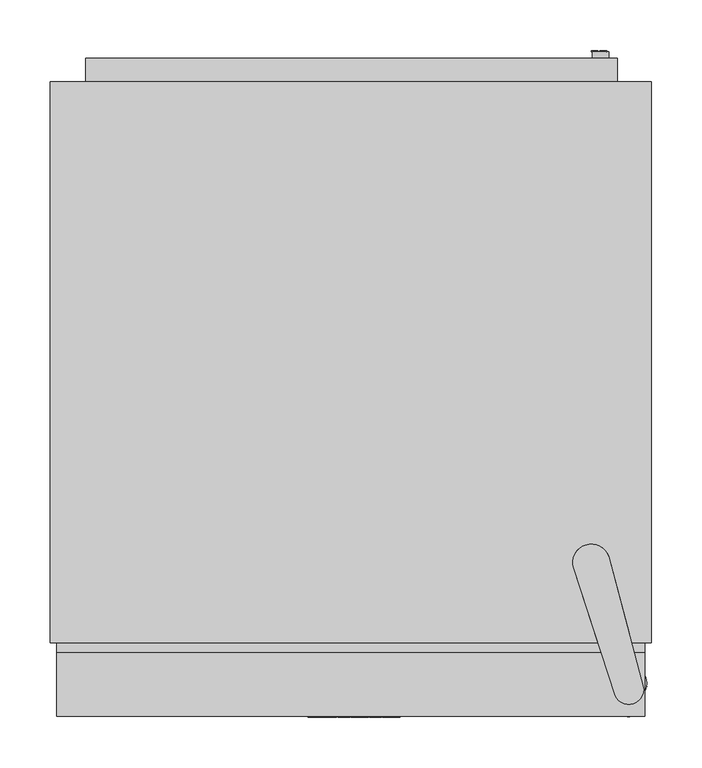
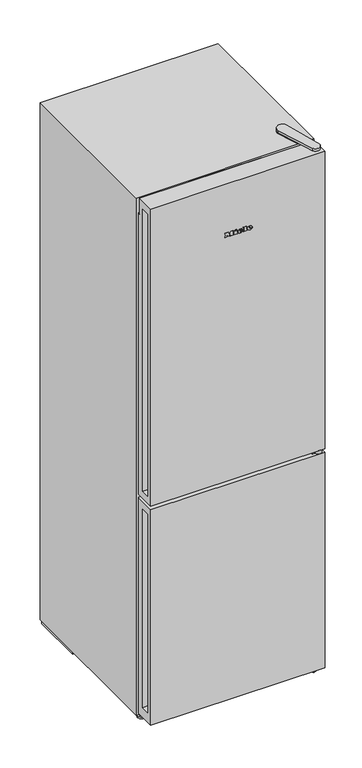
"""IFC4 building model written with IfcOpenShell, lengths in millimetres: proxy geometry, 12108880_OER_KDN4174E_EL : 38417451_OER_12108880_KDN4174E_EL."""

from ifc_helpers import new_model, si_unit, point, frame, frame_2d, origin, origin_with_axes, place, context, project, spatial, polyline, circle_curve, ellipse_curve, trimmed, segment, composite_curve, outline, extrude, faceted_brep, source, transform, mapped, element, save
from ifc_brep_helpers import plane_surface, cylinder_surface, revolved_surface, extruded_surface, advanced_brep


def specialty_equipment_d3030a19(model_context):
    return source(origin(), model_context, "Body", "SolidModel", [
        advanced_brep(
        [(38.73, -654.0, 1668.515), (38.73, -654.0, 1670.03), (48.765, -654.0, 1670.03), (31.305, -654.0, 1670.03), (35.43, -654.0, 1664.96), (48.51, -654.0, 1668.515), (43.98, -654.0, 1668.515), (40.41, -654.0, 1666.835), (38.73, -654.0, 1671.95), (38.73, -654.0, 1673.585), (41.295, -654.0, 1673.585), (41.295, -654.0, 1671.95), (38.73, -653.0, 1668.515), (40.41, -653.0, 1666.835), (43.98, -653.0, 1668.515), (48.51, -653.0, 1668.515), (35.43, -653.0, 1664.96), (31.305, -653.0, 1670.03), (48.765, -653.0, 1670.03), (38.73, -653.0, 1670.03), (38.73, -653.0, 1671.95), (41.295, -653.0, 1671.95), (41.295, -653.0, 1673.585), (38.73, -653.0, 1673.585)],
        [
            (0, 1),
            (1, 2),
            (2, 3, ellipse_curve(frame((40.035, -654.0, 1670.03), z_axis=(0.0, -1.0, 0.0), x_axis=(-1.0, 0.0, 0.0)), 8.73, 7.215)),
            (3, 4, circle_curve(frame((37.1100818, -654.0, 1670.54), z_axis=(0.0, -1.0, 0.0), x_axis=(0.0, 0.0, -1.0)), 5.8274415)),
            (4, 5, circle_curve(frame((39.860238, -654.0, 1674.5), z_axis=(0.0, -1.0, 0.0), x_axis=(0.0, 0.0, -1.0)), 10.5184889)),
            (5, 6),
            (6, 7, circle_curve(frame((41.1432353, -654.0, 1669.91), z_axis=(0.0, 1.0, 0.0), x_axis=(0.0, 0.0, -1.0)), 3.1612116)),
            (7, 0, circle_curve(frame((40.41, -654.0, 1668.515), z_axis=(0.0, 1.0, 0.0), x_axis=(0.0, 0.0, -1.0)), 1.68)),
            (8, 9),
            (9, 10, circle_curve(frame((40.0125, -654.0, 1673.585), z_axis=(0.0, 1.0, 0.0), x_axis=(0.0, 0.0, -1.0)), 1.2825)),
            (10, 11),
            (11, 8),
            (12, 13, circle_curve(frame((40.41, -653.0, 1668.515), z_axis=(0.0, -1.0, 0.0), x_axis=(0.0, 0.0, -1.0)), 1.68)),
            (13, 14, circle_curve(frame((41.1432353, -653.0, 1669.91), z_axis=(0.0, -1.0, 0.0), x_axis=(0.0, 0.0, -1.0)), 3.1612116)),
            (14, 15),
            (15, 16, circle_curve(frame((39.860238, -653.0, 1674.5), z_axis=(0.0, 1.0, 0.0), x_axis=(0.0, 0.0, -1.0)), 10.5184889)),
            (16, 17, circle_curve(frame((37.1100818, -653.0, 1670.54), z_axis=(0.0, 1.0, 0.0), x_axis=(0.0, 0.0, -1.0)), 5.8274415)),
            (17, 18, ellipse_curve(frame((40.035, -653.0, 1670.03), z_axis=(0.0, 1.0, 0.0), x_axis=(-1.0, 0.0, 0.0)), 8.73, 7.215)),
            (18, 19),
            (19, 12),
            (20, 21),
            (21, 22),
            (22, 23, circle_curve(frame((40.0125, -653.0, 1673.585), z_axis=(0.0, -1.0, 0.0), x_axis=(0.0, 0.0, -1.0)), 1.2825)),
            (23, 20),
            (0, 12),
            (19, 1),
            (18, 2),
            (5, 15),
            (14, 6),
            (17, 3),
            (13, 7),
            (16, 4),
            (8, 20),
            (23, 9),
            (22, 10),
            (21, 11),
        ],
        [
            plane_surface(frame((38.73, -654.0, 1670.03), z_axis=(0.0, -1.0, 0.0), x_axis=(0.0, 0.0, 1.0))),
            plane_surface(frame((38.73, -653.0, 1670.03), z_axis=(0.0, 1.0, 0.0), x_axis=(0.0, 0.0, -1.0))),
            plane_surface(frame((38.73, -654.0, 1668.515), z_axis=(1.0, 0.0, 0.0), x_axis=(0.0, 1.0, 0.0))),
            plane_surface(frame((38.73, -654.0, 1670.03), z_axis=(0.0, 0.0, -1.0), x_axis=(0.0, 1.0, 0.0))),
            plane_surface(frame((48.51, -654.0, 1668.515), z_axis=(0.0, 0.0, 1.0), x_axis=(0.0, 1.0, 0.0))),
            extruded_surface(trimmed(ellipse_curve(frame((40.035, -652.0, 1670.03), z_axis=(0.0, -1.0, 0.0), x_axis=(-1.0, 0.0, 0.0)), 8.73, 7.215), [point((48.765, -652.0, 1670.03))], [point((31.305, -652.0, 1670.03))], True, "CARTESIAN"), (0.0, -1.0, 0.0), 1.0),
            revolved_surface(polyline([(41.1432353, -653.0, 1666.7487884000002), (41.1432353, -654.0, 1666.7487884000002)]), (41.1432353, -653.0, 1669.91), (0.0, 1.0, 0.0)),
            revolved_surface(polyline([(40.41, -653.0, 1666.835), (40.41, -654.0, 1666.835)]), (40.41, -653.0, 1668.515), (0.0, 1.0, 0.0)),
            cylinder_surface(frame((37.1100818, -653.0, 1670.54), z_axis=(0.0, -1.0, 0.0), x_axis=(0.0, 0.0, -1.0)), 5.8274415),
            cylinder_surface(frame((39.860238, -653.0, 1674.5), z_axis=(0.0, -1.0, 0.0), x_axis=(0.0, 0.0, -1.0)), 10.5184889),
            plane_surface(frame((38.73, -654.0, 1671.95), z_axis=(1.0, 0.0, 0.0), x_axis=(0.0, 1.0, 0.0))),
            revolved_surface(polyline([(40.0125, -653.0, 1672.3025), (40.0125, -654.0, 1672.3025)]), (40.0125, -653.0, 1673.585), (0.0, 1.0, 0.0)),
            plane_surface(frame((41.295, -654.0, 1673.585), z_axis=(-1.0, 0.0, 0.0), x_axis=(0.0, 1.0, 0.0))),
            plane_surface(frame((41.295, -654.0, 1671.95), z_axis=(0.0, 0.0, 1.0), x_axis=(0.0, 1.0, 0.0))),
        ],
        [
            (0, [[1, 2, 3, 4, 5, 6, 7, 8], [9, 10, 11, 12]]),
            (1, [[13, 14, 15, 16, 17, 18, 19, 20], [21, 22, 23, 24]]),
            (2, [[-1, 25, -20, 26]]),
            (3, [[-2, -26, -19, 27]]),
            (4, [[-6, 28, -15, 29]]),
            (5, [[-3, -27, -18, 30]]),
            (6, [[-7, -29, -14, 31]]),
            (7, [[-8, -31, -13, -25]]),
            (8, [[-4, -30, -17, 32]]),
            (9, [[-5, -32, -16, -28]]),
            (10, [[-9, 33, -24, 34]]),
            (11, [[-10, -34, -23, 35]]),
            (12, [[-11, -35, -22, 36]]),
            (13, [[-12, -36, -21, -33]]),
        ],
    ),
        advanced_brep(
        [(7.425, -654.0, 1668.515), (7.425, -654.0, 1670.03), (17.46, -654.0, 1670.03), (0.0, -654.0, 1670.03), (4.125, -654.0, 1664.96), (17.205, -654.0, 1668.515), (12.675, -654.0, 1668.515), (9.105, -654.0, 1666.835), (7.425, -654.0, 1671.95), (7.425, -654.0, 1673.585), (9.99, -654.0, 1673.585), (9.99, -654.0, 1671.95), (7.425, -653.0, 1668.515), (9.105, -653.0, 1666.835), (12.675, -653.0, 1668.515), (17.205, -653.0, 1668.515), (4.125, -653.0, 1664.96), (0.0, -653.0, 1670.03), (17.46, -653.0, 1670.03), (7.425, -653.0, 1670.03), (7.425, -653.0, 1671.95), (9.99, -653.0, 1671.95), (9.99, -653.0, 1673.585), (7.425, -653.0, 1673.585)],
        [
            (0, 1),
            (1, 2),
            (2, 3, ellipse_curve(frame((8.73, -654.0, 1670.03), z_axis=(0.0, -1.0, 0.0), x_axis=(-1.0, 0.0, 0.0)), 8.73, 7.215)),
            (3, 4, circle_curve(frame((5.8050818, -654.0, 1670.54), z_axis=(0.0, -1.0, 0.0), x_axis=(0.0, 0.0, -1.0)), 5.8274415)),
            (4, 5, circle_curve(frame((8.555238, -654.0, 1674.5), z_axis=(0.0, -1.0, 0.0), x_axis=(0.0, 0.0, -1.0)), 10.5184889)),
            (5, 6),
            (6, 7, circle_curve(frame((9.8382353, -654.0, 1669.91), z_axis=(0.0, 1.0, 0.0), x_axis=(0.0, 0.0, -1.0)), 3.1612116)),
            (7, 0, circle_curve(frame((9.105, -654.0, 1668.515), z_axis=(0.0, 1.0, 0.0), x_axis=(0.0, 0.0, -1.0)), 1.68)),
            (8, 9),
            (9, 10, circle_curve(frame((8.7075, -654.0, 1673.585), z_axis=(0.0, 1.0, 0.0), x_axis=(0.0, 0.0, -1.0)), 1.2825)),
            (10, 11),
            (11, 8),
            (12, 13, circle_curve(frame((9.105, -653.0, 1668.515), z_axis=(0.0, -1.0, 0.0), x_axis=(0.0, 0.0, -1.0)), 1.68)),
            (13, 14, circle_curve(frame((9.8382353, -653.0, 1669.91), z_axis=(0.0, -1.0, 0.0), x_axis=(0.0, 0.0, -1.0)), 3.1612116)),
            (14, 15),
            (15, 16, circle_curve(frame((8.555238, -653.0, 1674.5), z_axis=(0.0, 1.0, 0.0), x_axis=(0.0, 0.0, -1.0)), 10.5184889)),
            (16, 17, circle_curve(frame((5.8050818, -653.0, 1670.54), z_axis=(0.0, 1.0, 0.0), x_axis=(0.0, 0.0, -1.0)), 5.8274415)),
            (17, 18, ellipse_curve(frame((8.73, -653.0, 1670.03), z_axis=(0.0, 1.0, 0.0), x_axis=(-1.0, 0.0, 0.0)), 8.73, 7.215)),
            (18, 19),
            (19, 12),
            (20, 21),
            (21, 22),
            (22, 23, circle_curve(frame((8.7075, -653.0, 1673.585), z_axis=(0.0, -1.0, 0.0), x_axis=(0.0, 0.0, -1.0)), 1.2825)),
            (23, 20),
            (0, 12),
            (19, 1),
            (18, 2),
            (5, 15),
            (14, 6),
            (17, 3),
            (13, 7),
            (16, 4),
            (8, 20),
            (23, 9),
            (22, 10),
            (21, 11),
        ],
        [
            plane_surface(frame((7.425, -654.0, 1670.03), z_axis=(0.0, -1.0, 0.0), x_axis=(0.0, 0.0, 1.0))),
            plane_surface(frame((7.425, -653.0, 1670.03), z_axis=(0.0, 1.0, 0.0), x_axis=(0.0, 0.0, -1.0))),
            plane_surface(frame((7.425, -654.0, 1668.515), z_axis=(1.0, 0.0, 0.0), x_axis=(0.0, 1.0, 0.0))),
            plane_surface(frame((7.425, -654.0, 1670.03), z_axis=(0.0, 0.0, -1.0), x_axis=(0.0, 1.0, 0.0))),
            plane_surface(frame((17.205, -654.0, 1668.515), z_axis=(0.0, 0.0, 1.0), x_axis=(0.0, 1.0, 0.0))),
            extruded_surface(trimmed(ellipse_curve(frame((8.73, -652.0, 1670.03), z_axis=(0.0, -1.0, 0.0), x_axis=(-1.0, 0.0, 0.0)), 8.73, 7.215), [point((17.46, -652.0, 1670.03))], [point((0.0, -652.0, 1670.03))], True, "CARTESIAN"), (0.0, -1.0, 0.0), 1.0),
            revolved_surface(polyline([(9.8382353, -653.0, 1666.7487884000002), (9.8382353, -654.0, 1666.7487884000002)]), (9.8382353, -653.0, 1669.91), (0.0, 1.0, 0.0)),
            revolved_surface(polyline([(9.105, -653.0, 1666.835), (9.105, -654.0, 1666.835)]), (9.105, -653.0, 1668.515), (0.0, 1.0, 0.0)),
            cylinder_surface(frame((5.8050818, -653.0, 1670.54), z_axis=(0.0, -1.0, 0.0), x_axis=(0.0, 0.0, -1.0)), 5.8274415),
            cylinder_surface(frame((8.555238, -653.0, 1674.5), z_axis=(0.0, -1.0, 0.0), x_axis=(0.0, 0.0, -1.0)), 10.5184889),
            plane_surface(frame((7.425, -654.0, 1671.95), z_axis=(1.0, 0.0, 0.0), x_axis=(0.0, 1.0, 0.0))),
            revolved_surface(polyline([(8.7075, -653.0, 1672.3025), (8.7075, -654.0, 1672.3025)]), (8.7075, -653.0, 1673.585), (0.0, 1.0, 0.0)),
            plane_surface(frame((9.99, -654.0, 1673.585), z_axis=(-1.0, 0.0, 0.0), x_axis=(0.0, 1.0, 0.0))),
            plane_surface(frame((9.99, -654.0, 1671.95), z_axis=(0.0, 0.0, 1.0), x_axis=(0.0, 1.0, 0.0))),
        ],
        [
            (0, [[1, 2, 3, 4, 5, 6, 7, 8], [9, 10, 11, 12]]),
            (1, [[13, 14, 15, 16, 17, 18, 19, 20], [21, 22, 23, 24]]),
            (2, [[-1, 25, -20, 26]]),
            (3, [[-2, -26, -19, 27]]),
            (4, [[-6, 28, -15, 29]]),
            (5, [[-3, -27, -18, 30]]),
            (6, [[-7, -29, -14, 31]]),
            (7, [[-8, -31, -13, -25]]),
            (8, [[-4, -30, -17, 32]]),
            (9, [[-5, -32, -16, -28]]),
            (10, [[-9, 33, -24, 34]]),
            (11, [[-10, -34, -23, 35]]),
            (12, [[-11, -35, -22, 36]]),
            (13, [[-12, -36, -21, -33]]),
        ],
    ),
        extrude(outline(polyline([(1679.075, -8.97), (1676.645, -7.83), (1679.015, -2.745), (1681.445, -3.87), (1679.075, -8.97)])), frame((0.0, -654.0, 0.0), z_axis=(0.0, 1.0, 0.0), x_axis=(0.0, 0.0, 1.0)), (0.0, 0.0, 1.0), 1.0),
        extrude(outline(polyline([(1676.315, -12.675), (1673.63, -12.675), (1673.63, -10.89), (1667.48, -10.89), (1667.48, -12.675), (1664.96, -12.675), (1664.96, -0.84), (1667.48, -0.84), (1667.48, -2.58), (1676.315, -2.58), (1676.315, -12.675)])), frame((0.0, -654.0, 0.0), z_axis=(0.0, 1.0, 0.0), x_axis=(0.0, 0.0, 1.0)), (0.0, 0.0, 1.0), 1.0),
        extrude(outline(polyline([(1677.515, 18.3), (1677.515, 20.1), (1667.48, 20.1), (1667.48, 18.3), (1664.96, 18.3), (1664.96, 30.465), (1667.48, 30.465), (1667.48, 28.62), (1679.96, 28.62), (1679.96, 18.3), (1677.515, 18.3)])), frame((0.0, -654.0, 0.0), z_axis=(0.0, 1.0, 0.0), x_axis=(0.0, 0.0, 1.0)), (0.0, 0.0, 1.0), 1.0),
        extrude(outline(polyline([(1677.515, -42.57), (1677.515, -40.755), (1667.48, -40.755), (1667.48, -42.57), (1664.96, -42.57), (1664.96, -35.97), (1667.48, -35.97), (1667.48, -37.77), (1673.8161247, -37.77), (1664.96, -31.065), (1674.1502223, -24.33), (1667.48, -24.33), (1667.48, -26.175), (1664.96, -26.175), (1664.96, -14.205), (1667.48, -14.205), (1667.48, -16.11), (1677.515, -16.11), (1677.515, -14.205), (1679.96, -14.205), (1679.96, -23.34), (1674.335, -27.72), (1679.96, -32.115), (1679.96, -42.57), (1677.515, -42.57)])), frame((0.0, -654.0, 0.0), z_axis=(0.0, 1.0, 0.0), x_axis=(0.0, 0.0, 1.0)), (0.0, 0.0, 1.0), 1.0),
        faceted_brep([(298.5, -23.0, 1850.0), (-298.5, -23.0, 1850.0), (-298.5, -580.0, 1850.0), (298.5, -580.0, 1850.0), (298.5, -23.0, 19.0), (298.5, -580.0, 19.0), (-298.5, -580.0, 19.0), (-298.5, -23.0, 19.0), (-234.0, -580.0, 1766.0), (234.0, -580.0, 1766.0), (234.0, -580.0, 827.0), (-234.0, -580.0, 827.0), (-234.0, -580.0, 733.0), (234.0, -580.0, 733.0), (234.0, -580.0, 109.0), (-234.0, -580.0, 109.0), (-122.246, -580.0, 1845.0), (122.246, -580.0, 1845.0), (122.246, -580.0, 1804.5), (-122.246, -580.0, 1804.5), (-234.0, -63.0, 1766.0), (234.0, -63.0, 1766.0), (234.0, -63.0, 827.0), (-234.0, -63.0, 827.0), (-234.0, -63.0, 733.0), (234.0, -63.0, 733.0), (234.0, -63.0, 109.0), (-234.0, -63.0, 109.0), (122.246, -579.0, 1845.0), (-122.246, -579.0, 1845.0), (-122.246, -579.0, 1804.5), (122.246, -579.0, 1804.5)], [[[0, 1, 2, 3]], [[4, 5, 6, 7]], [[1, 0, 4, 7]], [[2, 1, 7, 6]], [[3, 2, 6, 5], [8, 9, 10, 11], [12, 13, 14, 15], [16, 17, 18, 19]], [[0, 3, 5, 4]], [[20, 21, 9, 8]], [[22, 23, 11, 10]], [[21, 20, 23, 22]], [[23, 20, 8, 11]], [[21, 22, 10, 9]], [[24, 25, 13, 12]], [[26, 27, 15, 14]], [[25, 24, 27, 26]], [[27, 24, 12, 15]], [[25, 26, 14, 13]], [[28, 29, 30, 31]], [[29, 28, 17, 16]], [[30, 29, 16, 19]], [[31, 30, 19, 18]], [[28, 31, 18, 17]]]),
        extrude(outline(composite_curve([segment(polyline([(-56.420729, 6.1484915), (-39.9901847, 6.1484915)]), True, "CONTINUOUS"), segment(trimmed(circle_curve(frame_2d((-48.2054569, 8.6902384)), 8.5994869), [point((-39.9901847, 6.1484915))], [point((-56.420729, 6.1484915))], False, "CARTESIAN"), True, "CONTINUOUS")], self_intersect=False)), frame((264.4820102, 0.0, 0.0), z_axis=(1.0, 0.0, 0.0), x_axis=(0.0, 1.0, 0.0)), (0.0, 0.0, 1.0), 17.0656722),
        extrude(outline(composite_curve([segment(trimmed(circle_curve(frame_2d((-274.5, -569.6105025)), 7.4374754), [point((-281.9374754, -569.6105025))], [point((-267.0625246, -569.6105025))], False, "CARTESIAN"), True, "CONTINUOUS"), segment(trimmed(circle_curve(frame_2d((-274.5, -569.6105025)), 7.4374754), [point((-267.0625246, -569.6105025))], [point((-281.9374754, -569.6105025))], False, "CARTESIAN"), True, "CONTINUOUS")], self_intersect=False)), frame((0.0, 0.0, 6.1484915), z_axis=(0.0, 0.0, 1.0), x_axis=(1.0, 0.0, 0.0)), (0.0, 0.0, 1.0), 12.8515085),
        extrude(outline(composite_curve([segment(trimmed(circle_curve(frame_2d((-274.5, -569.7060517)), 12.797253), [point((-287.297253, -569.7060517))], [point((-261.702747, -569.7060517))], False, "CARTESIAN"), True, "CONTINUOUS"), segment(trimmed(circle_curve(frame_2d((-274.5, -569.7060517)), 12.797253), [point((-261.702747, -569.7060517))], [point((-287.297253, -569.7060517))], False, "CARTESIAN"), True, "CONTINUOUS")], self_intersect=False)), origin_with_axes(), (0.0, 0.0, 1.0), 6.1484915),
        extrude(outline(polyline([(-62.5, -580.0), (-81.5, -580.0), (-81.5, -579.0), (-62.5, -579.0), (-62.5, -580.0)])), frame((0.0, 0.0, 1819.0), z_axis=(0.0, 0.0, 1.0), x_axis=(1.0, 0.0, 0.0)), (0.0, 0.0, 1.0), 11.0),
        extrude(outline(polyline([(277.7112582, -200.120515), (251.0987637, -200.120515), (251.0987637, -87.2190022), (277.7112582, -87.2190022), (277.7112582, -200.120515)])), origin_with_axes(), (0.0, 0.0, 1.0), 6.1484915),
        extrude(outline(polyline([(251.0987637, -26.8205259), (291.0987637, -26.8205259), (291.0987637, -206.6206354), (251.0987637, -206.6206354), (251.0987637, -26.8205259)])), frame((0.0, 0.0, 6.1484915), z_axis=(0.0, 0.0, 1.0), x_axis=(1.0, 0.0, 0.0)), (0.0, 0.0, 1.0), 12.8515085),
        extrude(outline(composite_curve([segment(polyline([(-56.420729, 6.1484915), (-39.9901847, 6.1484915)]), True, "CONTINUOUS"), segment(trimmed(circle_curve(frame_2d((-48.2054569, 8.6902384)), 8.5994869), [point((-39.9901847, 6.1484915))], [point((-56.420729, 6.1484915))], False, "CARTESIAN"), True, "CONTINUOUS")], self_intersect=False)), frame((-281.5476824, 0.0, 0.0), z_axis=(1.0, 0.0, 0.0), x_axis=(0.0, 1.0, 0.0)), (0.0, 0.0, 1.0), 17.0656722),
        extrude(outline(polyline([(-277.7112582, -200.120515), (-277.7112582, -87.2190022), (-252.7112582, -87.2190022), (-252.7112582, -200.120515), (-277.7112582, -200.120515)])), origin_with_axes(), (0.0, 0.0, 1.0), 6.1484915),
        extrude(outline(polyline([(-252.7112582, -26.8205259), (-252.7112582, -206.6206354), (-295.0984336, -206.6206354), (-295.0984336, -26.8205259), (-252.7112582, -26.8205259)])), frame((0.0, 0.0, 6.1484915), z_axis=(0.0, 0.0, 1.0), x_axis=(1.0, 0.0, 0.0)), (0.0, 0.0, 1.0), 12.8515085),
        extrude(outline(polyline([(244.9015664, -32.3201), (244.9015664, -206.6206354), (-245.4999985, -206.6206354), (-245.4999985, -32.3201), (244.9015664, -32.3201)])), frame((0.0, 0.0, 6.1484915), z_axis=(0.0, 0.0, 1.0), x_axis=(1.0, 0.0, 0.0)), (0.0, 0.0, 1.0), 12.8515085),
        extrude(outline(polyline([(264.8461624, -23.0), (-263.5, -23.0), (-263.5, 0.0), (264.8461624, 0.0), (264.8461624, -23.0)])), frame((0.0, 0.0, 231.5932438), z_axis=(0.0, 0.0, 1.0), x_axis=(1.0, 0.0, 0.0)), (0.0, 0.0, 1.0), 1494.4067562),
        extrude(outline(polyline([(188.0989562, 254.5064154), (198.1445872, 254.5064154), (198.1445872, 247.2861181), (196.8888834, 247.2861181), (196.8888834, 253.2507116), (193.9065866, 253.2507116), (193.9065866, 247.6000441), (192.6508828, 247.6000441), (192.6508828, 253.2507116), (189.3546601, 253.2507116), (189.3546601, 247.1291552), (188.0989562, 247.1291552), (188.0989562, 254.5064154)])), frame((0.0, 7.0, 0.0), z_axis=(0.0, 1.0, 0.0), x_axis=(0.0, 0.0, 1.0)), (0.0, 0.0, 1.0), 1.0),
        extrude(outline(polyline([(188.0989562, 245.2455993), (198.1445872, 245.2455993), (198.1445872, 243.9898955), (189.3546601, 243.9898955), (189.3546601, 238.96708), (188.0989562, 238.96708), (188.0989562, 245.2455993)])), frame((0.0, 7.0, 0.0), z_axis=(0.0, 1.0, 0.0), x_axis=(0.0, 0.0, 1.0)), (0.0, 0.0, 1.0), 1.0),
        extrude(outline(composite_curve([segment(trimmed(circle_curve(frame_2d((193.0, 248.0)), 8.0), [point((193.0, 240.0))], [point((193.0, 256.0))], False, "CARTESIAN"), True, "CONTINUOUS"), segment(trimmed(circle_curve(frame_2d((193.0, 248.0)), 8.0), [point((193.0, 256.0))], [point((193.0, 240.0))], False, "CARTESIAN"), True, "CONTINUOUS")], self_intersect=False)), frame((0.0, -23.0, 0.0), z_axis=(0.0, 1.0, 0.0), x_axis=(0.0, 0.0, 1.0)), (0.0, 0.0, 1.0), 30.0),
        extrude(outline(polyline([(255.1369404, -644.0500518), (255.1369404, -589.0), (292.0, -589.0), (292.0, -629.2312633), (263.6572781, -629.2312633), (263.6572781, -644.0500518), (255.1369404, -644.0500518)])), frame((0.0, 0.0, 788.0), z_axis=(0.0, 0.0, 1.0), x_axis=(1.0, 0.0, 0.0)), (0.0, 0.0, 1.0), 11.7998428),
        extrude(outline(composite_curve([segment(trimmed(circle_curve(frame_2d((276.0, -641.3479469)), 12.0), [point((264.0, -641.3479469))], [point((288.0, -641.3479469))], False, "CARTESIAN"), True, "CONTINUOUS"), segment(trimmed(circle_curve(frame_2d((276.0, -641.3479469)), 12.0), [point((288.0, -641.3479469))], [point((264.0, -641.3479469))], False, "CARTESIAN"), True, "CONTINUOUS")], self_intersect=False)), frame((0.0, 0.0, 788.0), z_axis=(0.0, 0.0, 1.0), x_axis=(1.0, 0.0, 0.0)), (0.0, 0.0, 1.0), 11.7998428),
        faceted_brep([(292.0, -653.0, 788.0), (-292.0, -653.0, 788.0), (-292.0, -653.0, 24.0), (292.0, -653.0, 24.0), (292.0, -580.0, 788.0), (292.0, -580.0, 24.0), (-292.0, -580.0, 24.0), (-292.0, -580.0, 788.0), (-292.0, -605.0, 58.5498157), (-292.0, -605.0, 761.4498287), (-292.0, -635.0, 761.4498287), (-292.0, -635.0, 58.5498157), (-268.2740132, -635.0, 761.4498287), (-268.2740132, -635.0, 58.5498157), (-268.2740132, -605.0, 761.4498287), (-268.2740132, -605.0, 58.5498157)], [[[0, 1, 2, 3]], [[4, 5, 6, 7]], [[1, 0, 4, 7]], [[2, 1, 7, 6], [8, 9, 10, 11]], [[3, 2, 6, 5]], [[0, 3, 5, 4]], [[12, 13, 11, 10]], [[14, 12, 10, 9]], [[15, 13, 12, 14]], [[15, 14, 9, 8]], [[13, 15, 8, 11]]]),
        extrude(outline(composite_curve([segment(trimmed(circle_curve(frame_2d((255.0, -586.0)), 13.0), [point((242.0, -586.0))], [point((268.0, -586.0))], False, "CARTESIAN"), True, "CONTINUOUS"), segment(trimmed(circle_curve(frame_2d((255.0, -586.0)), 13.0), [point((268.0, -586.0))], [point((242.0, -586.0))], False, "CARTESIAN"), True, "CONTINUOUS")], self_intersect=False)), origin_with_axes(), (0.0, 0.0, 1.0), 6.9998158),
        extrude(outline(composite_curve([segment(trimmed(circle_curve(frame_2d((276.9946442, -619.9124361)), 17.0), [point((259.9946442, -619.9124361))], [point((293.9946442, -619.9124361))], False, "CARTESIAN"), True, "CONTINUOUS"), segment(trimmed(circle_curve(frame_2d((276.9946442, -619.9124361)), 17.0), [point((293.9946442, -619.9124361))], [point((259.9946442, -619.9124361))], False, "CARTESIAN"), True, "CONTINUOUS")], self_intersect=False)), frame((0.0, 0.0, 18.8964761), z_axis=(0.0, 0.0, 1.0), x_axis=(1.0, 0.0, 0.0)), (0.0, 0.0, 1.0), 5.1035239),
        extrude(outline(polyline([(294.0677389, -623.5579978), (264.4272141, -637.8371511), (205.1568838, -531.0918017), (240.1598028, -511.6564392), (294.0677389, -623.5579978)])), frame((0.0, 0.0, 6.9998158), z_axis=(0.0, 0.0, 1.0), x_axis=(1.0, 0.0, 0.0)), (0.0, 0.0, 1.0), 11.8966603),
        extrude(outline(composite_curve([segment(polyline([(276.4367298, -571.0430426), (245.1616399, -579.2864892), (221.3582255, -506.2033511)]), True, "CONTINUOUS"), segment(trimmed(circle_curve(frame_2d((238.85062, -500.5060216)), 18.3968321), [point((221.3582255, -506.2033511))], [point((256.3428386, -494.8081519))], False, "CARTESIAN"), True, "CONTINUOUS"), segment(polyline([(256.3428386, -494.8081519), (276.4367298, -571.0430426)]), True, "CONTINUOUS")], self_intersect=False)), frame((0.0, 0.0, 1849.9998428), z_axis=(0.0, 0.0, 1.0), x_axis=(1.0, 0.0, 0.0)), (0.0, 0.0, 1.0), 2.8),
        extrude(outline(composite_curve([segment(polyline([(262.5128912, -632.5530567), (221.3582255, -506.2033511)]), True, "CONTINUOUS"), segment(trimmed(circle_curve(frame_2d((238.850532, -500.5057515)), 18.3968321), [point((221.3582255, -506.2033511))], [point((256.3428386, -494.8081519))], False, "CARTESIAN"), True, "CONTINUOUS"), segment(polyline([(256.3428386, -494.8081519), (291.0205136, -626.3729512)]), True, "CONTINUOUS"), segment(trimmed(circle_curve(frame_2d((276.0339956, -626.0831703)), 14.9893193), [point((291.0205136, -626.3729512))], [point((262.5128912, -632.5530567))], False, "CARTESIAN"), True, "CONTINUOUS")], self_intersect=False)), frame((0.0, 0.0, 1852.7998428), z_axis=(0.0, 0.0, 1.0), x_axis=(1.0, 0.0, 0.0)), (0.0, 0.0, 1.0), 9.2001572),
        extrude(outline(polyline([(292.0, -589.0), (162.9885295, -589.0), (162.9885295, -580.0), (292.0, -580.0), (292.0, -589.0)])), frame((0.0, 0.0, 788.0), z_axis=(0.0, 0.0, 1.0), x_axis=(1.0, 0.0, 0.0)), (0.0, 0.0, 1.0), 11.7998428),
        faceted_brep([(292.0, -653.0, 1852.7998428), (-292.0, -653.0, 1852.7998428), (-292.0, -653.0, 799.7998428), (292.0, -653.0, 799.7998428), (292.0, -580.0, 799.7998428), (-292.0, -580.0, 799.7998428), (-292.0, -580.0, 1796.7998428), (292.0, -580.0, 1796.7998428), (292.0, -589.8392038, 1852.7998428), (-292.0, -589.8392038, 1852.7998428), (-292.0, -589.8392038, 1796.7998428), (-292.0, -635.0, 1824.0), (-292.0, -635.0, 825.268066), (-292.0, -607.2616501, 825.268066), (-292.0, -607.2616501, 1824.0), (292.0, -589.8392038, 1796.7998428), (-268.2740132, -635.0, 825.268066), (-268.2740132, -607.2616501, 825.268066), (-268.2740132, -635.0, 1824.0), (-268.2740132, -607.2616501, 1824.0)], [[[0, 1, 2, 3]], [[4, 5, 6, 7]], [[1, 0, 8, 9]], [[2, 1, 9, 10, 6, 5], [11, 12, 13, 14]], [[3, 2, 5, 4]], [[0, 3, 4, 7, 15, 8]], [[15, 10, 9, 8]], [[10, 15, 7, 6]], [[16, 17, 13, 12]], [[18, 16, 12, 11]], [[18, 19, 17, 16]], [[17, 19, 14, 13]], [[19, 18, 11, 14]]]),
        advanced_brep(
        [(116.8121148, -580.0, 1831.384), (116.8121148, -580.0, 1832.192), (122.1641148, -580.0, 1832.192), (112.8521148, -580.0, 1832.192), (115.0521148, -580.0, 1829.488), (122.0281148, -580.0, 1831.384), (119.6121148, -580.0, 1831.384), (117.7081148, -580.0, 1830.488), (116.8121148, -580.0, 1833.216), (116.8121148, -580.0, 1834.088), (118.1801148, -580.0, 1834.088), (118.1801148, -580.0, 1833.216), (116.8121148, -579.0, 1831.384), (117.7081148, -579.0, 1830.488), (119.6121148, -579.0, 1831.384), (122.0281148, -579.0, 1831.384), (115.0521148, -579.0, 1829.488), (112.8521148, -579.0, 1832.192), (122.1641148, -579.0, 1832.192), (116.8121148, -579.0, 1832.192), (116.8121148, -579.0, 1833.216), (118.1801148, -579.0, 1833.216), (118.1801148, -579.0, 1834.088), (116.8121148, -579.0, 1834.088)],
        [
            (0, 1),
            (1, 2),
            (2, 3, ellipse_curve(frame((117.5081148, -580.0, 1832.192), z_axis=(0.0, -1.0, 0.0), x_axis=(-1.0, 0.0, 0.0)), 4.656, 3.848)),
            (3, 4, circle_curve(frame((115.9481584, -580.0, 1832.464), z_axis=(0.0, -1.0, 0.0), x_axis=(0.0, 0.0, -1.0)), 3.1079688)),
            (4, 5, circle_curve(frame((117.4149084, -580.0, 1834.576), z_axis=(0.0, -1.0, 0.0), x_axis=(0.0, 0.0, -1.0)), 5.6098607)),
            (5, 6),
            (6, 7, circle_curve(frame((118.0991736, -580.0, 1832.128), z_axis=(0.0, 1.0, 0.0), x_axis=(0.0, 0.0, -1.0)), 1.6859795)),
            (7, 0, circle_curve(frame((117.7081148, -580.0, 1831.384), z_axis=(0.0, 1.0, 0.0), x_axis=(0.0, 0.0, -1.0)), 0.896)),
            (8, 9),
            (9, 10, circle_curve(frame((117.4961148, -580.0, 1834.088), z_axis=(0.0, 1.0, 0.0), x_axis=(0.0, 0.0, -1.0)), 0.684)),
            (10, 11),
            (11, 8),
            (12, 13, circle_curve(frame((117.7081148, -579.0, 1831.384), z_axis=(0.0, -1.0, 0.0), x_axis=(0.0, 0.0, -1.0)), 0.896)),
            (13, 14, circle_curve(frame((118.0991736, -579.0, 1832.128), z_axis=(0.0, -1.0, 0.0), x_axis=(0.0, 0.0, -1.0)), 1.6859795)),
            (14, 15),
            (15, 16, circle_curve(frame((117.4149084, -579.0, 1834.576), z_axis=(0.0, 1.0, 0.0), x_axis=(0.0, 0.0, -1.0)), 5.6098607)),
            (16, 17, circle_curve(frame((115.9481584, -579.0, 1832.464), z_axis=(0.0, 1.0, 0.0), x_axis=(0.0, 0.0, -1.0)), 3.1079688)),
            (17, 18, ellipse_curve(frame((117.5081148, -579.0, 1832.192), z_axis=(0.0, 1.0, 0.0), x_axis=(-1.0, 0.0, 0.0)), 4.656, 3.848)),
            (18, 19),
            (19, 12),
            (20, 21),
            (21, 22),
            (22, 23, circle_curve(frame((117.4961148, -579.0, 1834.088), z_axis=(0.0, -1.0, 0.0), x_axis=(0.0, 0.0, -1.0)), 0.684)),
            (23, 20),
            (0, 12),
            (19, 1),
            (18, 2),
            (5, 15),
            (14, 6),
            (17, 3),
            (13, 7),
            (16, 4),
            (8, 20),
            (23, 9),
            (22, 10),
            (21, 11),
        ],
        [
            plane_surface(frame((116.8121148, -580.0, 1832.192), z_axis=(0.0, -1.0, 0.0), x_axis=(0.0, 0.0, 1.0))),
            plane_surface(frame((116.8121148, -579.0, 1832.192), z_axis=(0.0, 1.0, 0.0), x_axis=(0.0, 0.0, -1.0))),
            plane_surface(frame((116.8121148, -580.0, 1831.384), z_axis=(1.0, 0.0, 0.0), x_axis=(0.0, 1.0, 0.0))),
            plane_surface(frame((116.8121148, -580.0, 1832.192), z_axis=(0.0, 0.0, -1.0), x_axis=(0.0, 1.0, 0.0))),
            plane_surface(frame((122.0281148, -580.0, 1831.384), z_axis=(0.0, 0.0, 1.0), x_axis=(0.0, 1.0, 0.0))),
            extruded_surface(trimmed(ellipse_curve(frame((117.5081148, -578.0, 1832.192), z_axis=(0.0, -1.0, 0.0), x_axis=(-1.0, 0.0, 0.0)), 4.656, 3.848), [point((122.1641148, -578.0, 1832.192))], [point((112.8521148, -578.0, 1832.192))], True, "CARTESIAN"), (0.0, -1.0, 0.0), 1.0),
            revolved_surface(polyline([(118.0991736, -579.0, 1830.4420205), (118.0991736, -580.0, 1830.4420205)]), (118.0991736, -579.0, 1832.128), (0.0, 1.0, 0.0)),
            revolved_surface(polyline([(117.7081148, -579.0, 1830.488), (117.7081148, -580.0, 1830.488)]), (117.7081148, -579.0, 1831.384), (0.0, 1.0, 0.0)),
            cylinder_surface(frame((115.9481584, -579.0, 1832.464), z_axis=(0.0, -1.0, 0.0), x_axis=(0.0, 0.0, -1.0)), 3.1079688),
            cylinder_surface(frame((117.4149084, -579.0, 1834.576), z_axis=(0.0, -1.0, 0.0), x_axis=(0.0, 0.0, -1.0)), 5.6098607),
            plane_surface(frame((116.8121148, -580.0, 1833.216), z_axis=(1.0, 0.0, 0.0), x_axis=(0.0, 1.0, 0.0))),
            revolved_surface(polyline([(117.4961148, -579.0, 1833.404), (117.4961148, -580.0, 1833.404)]), (117.4961148, -579.0, 1834.088), (0.0, 1.0, 0.0)),
            plane_surface(frame((118.1801148, -580.0, 1834.088), z_axis=(-1.0, 0.0, 0.0), x_axis=(0.0, 1.0, 0.0))),
            plane_surface(frame((118.1801148, -580.0, 1833.216), z_axis=(0.0, 0.0, 1.0), x_axis=(0.0, 1.0, 0.0))),
        ],
        [
            (0, [[1, 2, 3, 4, 5, 6, 7, 8], [9, 10, 11, 12]]),
            (1, [[13, 14, 15, 16, 17, 18, 19, 20], [21, 22, 23, 24]]),
            (2, [[-1, 25, -20, 26]]),
            (3, [[-2, -26, -19, 27]]),
            (4, [[-6, 28, -15, 29]]),
            (5, [[-3, -27, -18, 30]]),
            (6, [[-7, -29, -14, 31]]),
            (7, [[-8, -31, -13, -25]]),
            (8, [[-4, -30, -17, 32]]),
            (9, [[-5, -32, -16, -28]]),
            (10, [[-9, 33, -24, 34]]),
            (11, [[-10, -34, -23, 35]]),
            (12, [[-11, -35, -22, 36]]),
            (13, [[-12, -36, -21, -33]]),
        ],
    ),
        advanced_brep(
        [(100.1161148, -580.0, 1831.384), (100.1161148, -580.0, 1832.192), (105.4681148, -580.0, 1832.192), (96.1561148, -580.0, 1832.192), (98.3561148, -580.0, 1829.488), (105.3321148, -580.0, 1831.384), (102.9161148, -580.0, 1831.384), (101.0121148, -580.0, 1830.488), (100.1161148, -580.0, 1833.216), (100.1161148, -580.0, 1834.088), (101.4841148, -580.0, 1834.088), (101.4841148, -580.0, 1833.216), (100.1161148, -579.0, 1831.384), (101.0121148, -579.0, 1830.488), (102.9161148, -579.0, 1831.384), (105.3321148, -579.0, 1831.384), (98.3561148, -579.0, 1829.488), (96.1561148, -579.0, 1832.192), (105.4681148, -579.0, 1832.192), (100.1161148, -579.0, 1832.192), (100.1161148, -579.0, 1833.216), (101.4841148, -579.0, 1833.216), (101.4841148, -579.0, 1834.088), (100.1161148, -579.0, 1834.088)],
        [
            (0, 1),
            (1, 2),
            (2, 3, ellipse_curve(frame((100.8121148, -580.0, 1832.192), z_axis=(0.0, -1.0, 0.0), x_axis=(-1.0, 0.0, 0.0)), 4.656, 3.848)),
            (3, 4, circle_curve(frame((99.2521584, -580.0, 1832.464), z_axis=(0.0, -1.0, 0.0), x_axis=(0.0, 0.0, -1.0)), 3.1079688)),
            (4, 5, circle_curve(frame((100.7189084, -580.0, 1834.576), z_axis=(0.0, -1.0, 0.0), x_axis=(0.0, 0.0, -1.0)), 5.6098607)),
            (5, 6),
            (6, 7, circle_curve(frame((101.4031736, -580.0, 1832.128), z_axis=(0.0, 1.0, 0.0), x_axis=(0.0, 0.0, -1.0)), 1.6859795)),
            (7, 0, circle_curve(frame((101.0121148, -580.0, 1831.384), z_axis=(0.0, 1.0, 0.0), x_axis=(0.0, 0.0, -1.0)), 0.896)),
            (8, 9),
            (9, 10, circle_curve(frame((100.8001148, -580.0, 1834.088), z_axis=(0.0, 1.0, 0.0), x_axis=(0.0, 0.0, -1.0)), 0.684)),
            (10, 11),
            (11, 8),
            (12, 13, circle_curve(frame((101.0121148, -579.0, 1831.384), z_axis=(0.0, -1.0, 0.0), x_axis=(0.0, 0.0, -1.0)), 0.896)),
            (13, 14, circle_curve(frame((101.4031736, -579.0, 1832.128), z_axis=(0.0, -1.0, 0.0), x_axis=(0.0, 0.0, -1.0)), 1.6859795)),
            (14, 15),
            (15, 16, circle_curve(frame((100.7189084, -579.0, 1834.576), z_axis=(0.0, 1.0, 0.0), x_axis=(0.0, 0.0, -1.0)), 5.6098607)),
            (16, 17, circle_curve(frame((99.2521584, -579.0, 1832.464), z_axis=(0.0, 1.0, 0.0), x_axis=(0.0, 0.0, -1.0)), 3.1079688)),
            (17, 18, ellipse_curve(frame((100.8121148, -579.0, 1832.192), z_axis=(0.0, 1.0, 0.0), x_axis=(-1.0, 0.0, 0.0)), 4.656, 3.848)),
            (18, 19),
            (19, 12),
            (20, 21),
            (21, 22),
            (22, 23, circle_curve(frame((100.8001148, -579.0, 1834.088), z_axis=(0.0, -1.0, 0.0), x_axis=(0.0, 0.0, -1.0)), 0.684)),
            (23, 20),
            (0, 12),
            (19, 1),
            (18, 2),
            (5, 15),
            (14, 6),
            (17, 3),
            (13, 7),
            (16, 4),
            (8, 20),
            (23, 9),
            (22, 10),
            (21, 11),
        ],
        [
            plane_surface(frame((100.1161148, -580.0, 1832.192), z_axis=(0.0, -1.0, 0.0), x_axis=(0.0, 0.0, 1.0))),
            plane_surface(frame((100.1161148, -579.0, 1832.192), z_axis=(0.0, 1.0, 0.0), x_axis=(0.0, 0.0, -1.0))),
            plane_surface(frame((100.1161148, -580.0, 1831.384), z_axis=(1.0, 0.0, 0.0), x_axis=(0.0, 1.0, 0.0))),
            plane_surface(frame((100.1161148, -580.0, 1832.192), z_axis=(0.0, 0.0, -1.0), x_axis=(0.0, 1.0, 0.0))),
            plane_surface(frame((105.3321148, -580.0, 1831.384), z_axis=(0.0, 0.0, 1.0), x_axis=(0.0, 1.0, 0.0))),
            extruded_surface(trimmed(ellipse_curve(frame((100.8121148, -578.0, 1832.192), z_axis=(0.0, -1.0, 0.0), x_axis=(-1.0, 0.0, 0.0)), 4.656, 3.848), [point((105.4681148, -578.0, 1832.192))], [point((96.1561148, -578.0, 1832.192))], True, "CARTESIAN"), (0.0, -1.0, 0.0), 1.0),
            revolved_surface(polyline([(101.4031736, -579.0, 1830.4420205), (101.4031736, -580.0, 1830.4420205)]), (101.4031736, -579.0, 1832.128), (0.0, 1.0, 0.0)),
            revolved_surface(polyline([(101.0121148, -579.0, 1830.488), (101.0121148, -580.0, 1830.488)]), (101.0121148, -579.0, 1831.384), (0.0, 1.0, 0.0)),
            cylinder_surface(frame((99.2521584, -579.0, 1832.464), z_axis=(0.0, -1.0, 0.0), x_axis=(0.0, 0.0, -1.0)), 3.1079688),
            cylinder_surface(frame((100.7189084, -579.0, 1834.576), z_axis=(0.0, -1.0, 0.0), x_axis=(0.0, 0.0, -1.0)), 5.6098607),
            plane_surface(frame((100.1161148, -580.0, 1833.216), z_axis=(1.0, 0.0, 0.0), x_axis=(0.0, 1.0, 0.0))),
            revolved_surface(polyline([(100.8001148, -579.0, 1833.404), (100.8001148, -580.0, 1833.404)]), (100.8001148, -579.0, 1834.088), (0.0, 1.0, 0.0)),
            plane_surface(frame((101.4841148, -580.0, 1834.088), z_axis=(-1.0, 0.0, 0.0), x_axis=(0.0, 1.0, 0.0))),
            plane_surface(frame((101.4841148, -580.0, 1833.216), z_axis=(0.0, 0.0, 1.0), x_axis=(0.0, 1.0, 0.0))),
        ],
        [
            (0, [[1, 2, 3, 4, 5, 6, 7, 8], [9, 10, 11, 12]]),
            (1, [[13, 14, 15, 16, 17, 18, 19, 20], [21, 22, 23, 24]]),
            (2, [[-1, 25, -20, 26]]),
            (3, [[-2, -26, -19, 27]]),
            (4, [[-6, 28, -15, 29]]),
            (5, [[-3, -27, -18, 30]]),
            (6, [[-7, -29, -14, 31]]),
            (7, [[-8, -31, -13, -25]]),
            (8, [[-4, -30, -17, 32]]),
            (9, [[-5, -32, -16, -28]]),
            (10, [[-9, 33, -24, 34]]),
            (11, [[-10, -34, -23, 35]]),
            (12, [[-11, -35, -22, 36]]),
            (13, [[-12, -36, -21, -33]]),
        ],
    ),
        extrude(outline(polyline([(1837.016, 91.3721148), (1835.72, 91.9801148), (1836.984, 94.6921148), (1838.28, 94.0921148), (1837.016, 91.3721148)])), frame((0.0, -580.0, 0.0), z_axis=(0.0, 1.0, 0.0), x_axis=(0.0, 0.0, 1.0)), (0.0, 0.0, 1.0), 1.0),
        extrude(outline(polyline([(1835.544, 89.3961148), (1834.112, 89.3961148), (1834.112, 90.3481148), (1830.832, 90.3481148), (1830.832, 89.3961148), (1829.488, 89.3961148), (1829.488, 95.7081148), (1830.832, 95.7081148), (1830.832, 94.7801148), (1835.544, 94.7801148), (1835.544, 89.3961148)])), frame((0.0, -580.0, 0.0), z_axis=(0.0, 1.0, 0.0), x_axis=(0.0, 0.0, 1.0)), (0.0, 0.0, 1.0), 1.0),
        extrude(outline(polyline([(1836.184, 105.9161148), (1836.184, 106.8761148), (1830.832, 106.8761148), (1830.832, 105.9161148), (1829.488, 105.9161148), (1829.488, 112.4041148), (1830.832, 112.4041148), (1830.832, 111.4201148), (1837.488, 111.4201148), (1837.488, 105.9161148), (1836.184, 105.9161148)])), frame((0.0, -580.0, 0.0), z_axis=(0.0, 1.0, 0.0), x_axis=(0.0, 0.0, 1.0)), (0.0, 0.0, 1.0), 1.0),
        extrude(outline(polyline([(1836.184, 73.4521148), (1836.184, 74.4201148), (1830.832, 74.4201148), (1830.832, 73.4521148), (1829.488, 73.4521148), (1829.488, 76.9721148), (1830.832, 76.9721148), (1830.832, 76.0121148), (1834.2351247, 76.0121148), (1829.488, 79.5881148), (1834.3032223, 83.1801148), (1830.832, 83.1801148), (1830.832, 82.1961148), (1829.488, 82.1961148), (1829.488, 88.5801148), (1830.832, 88.5801148), (1830.832, 87.5641148), (1836.184, 87.5641148), (1836.184, 88.5801148), (1837.488, 88.5801148), (1837.488, 83.7081148), (1834.488, 81.3721148), (1837.488, 79.0281148), (1837.488, 73.4521148), (1836.184, 73.4521148)])), frame((0.0, -580.0, 0.0), z_axis=(0.0, 1.0, 0.0), x_axis=(0.0, 0.0, 1.0)), (0.0, 0.0, 1.0), 1.0),
    ])


if __name__ == "__main__":
    model = new_model("IFC4")
    model_context = context("Model", 3, world=origin())
    ifc_project = project(units=[si_unit("LENGTHUNIT", "METRE", prefix="MILLI")], contexts=[model_context])
    site = spatial("IfcSite", under=ifc_project)
    building = spatial("IfcBuilding", under=site)
    placement = place(None, origin())
    specialty_equipment_shape = specialty_equipment_d3030a19(model_context)
    element("IfcBuildingElementProxy", 1, Name="12108880_OER_KDN4174E_EL : 38417451_OER_12108880_KDN4174E_EL", ObjectType="12108880_OER_KDN4174E_EL : 38417451_OER_12108880_KDN4174E_EL", at=placement, inside=building, context=model_context, shape_type="MappedRepresentation", body=[
        mapped(specialty_equipment_shape, transform((0.0, 0.0, 0.0), x_axis=(1.0, 0.0, 0.0), y_axis=(0.0, 1.0, 0.0), z_axis=(0.0, 0.0, 1.0))),
    ])
    save(model, "model.ifc")
